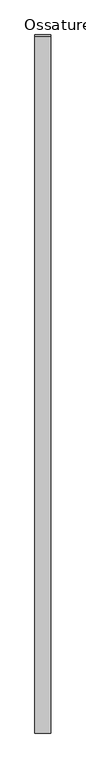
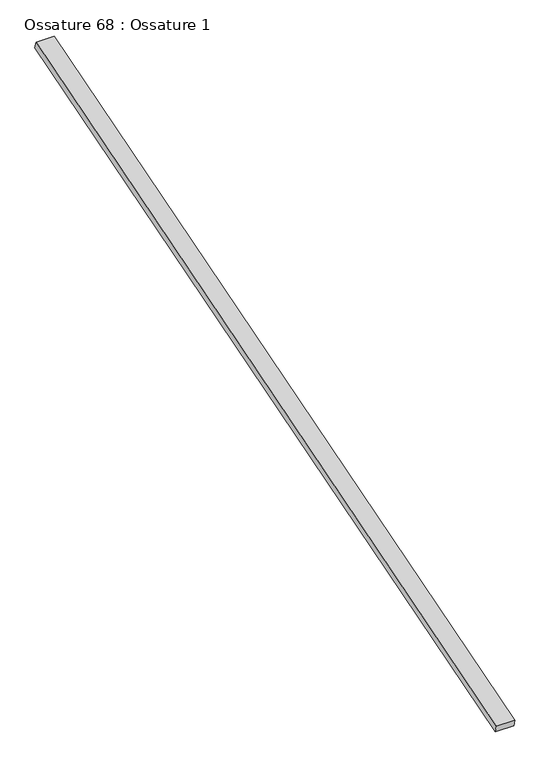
"""IFC4 building model written with IfcOpenShell, lengths in millimetres: beam geometry, Ossature 68 : Ossature 1."""

from ifc_helpers import new_model, si_unit, frame, origin, place, context, project, spatial, polyline, outline, extrude, source, transform, mapped, element, save


def ossature_68_ossature_1_594ead5e(model_context):
    return source(origin(), model_context, "Body", "SweptSolid", [
        extrude(outline(polyline([(0.0, 0.0), (0.0, -4543.0299679), (-100.0, -4543.0299679), (-100.0, 0.0), (0.0, 0.0)])), frame((16486.0466393, -833.3913565, 8153.6336115), z_axis=(0.0, -0.28734788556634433, 0.9578262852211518), x_axis=(-1.0, 0.0, 0.0)), (0.0, 0.0, 1.0), 40.0),
    ])


if __name__ == "__main__":
    model = new_model("IFC4")
    model_context = context("Model", 3, world=origin())
    ifc_project = project(units=[si_unit("LENGTHUNIT", "METRE", prefix="MILLI")], contexts=[model_context])
    site = spatial("IfcSite", under=ifc_project)
    building = spatial("IfcBuilding", under=site)
    placement = place(None, origin())
    ossature_68_ossature_1_shape = ossature_68_ossature_1_594ead5e(model_context)
    element("IfcBeam", 1, ObjectType="Ossature 68 : Ossature 1", at=placement, inside=building, context=model_context, shape_type="MappedRepresentation", body=[
        mapped(ossature_68_ossature_1_shape, transform((0.0, 0.0, 0.0), x_axis=(1.0, 0.0, 0.0), y_axis=(0.0, 1.0, 0.0), z_axis=(0.0, 0.0, 1.0))),
    ])
    save(model, "model.ifc")
